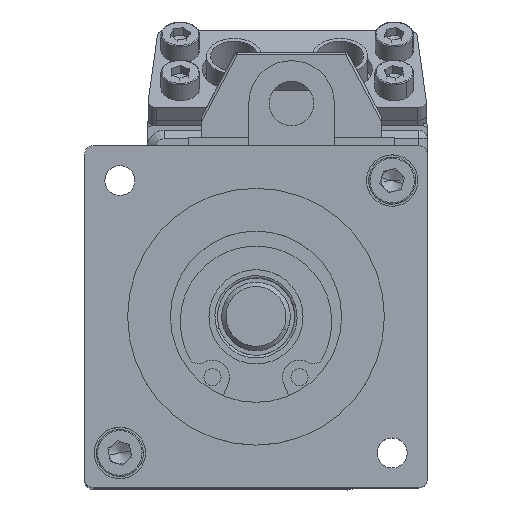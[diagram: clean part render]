
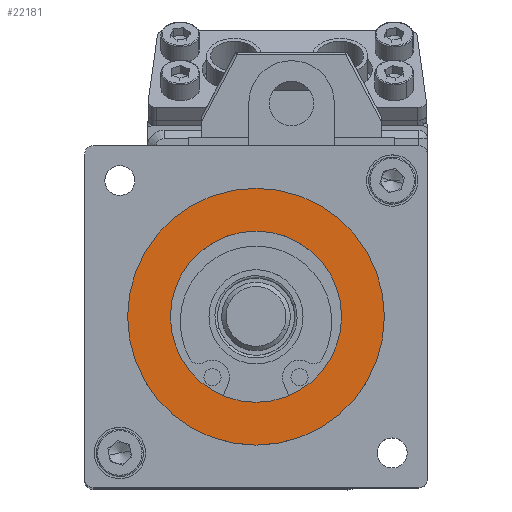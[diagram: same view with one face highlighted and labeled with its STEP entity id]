
A CAD part, top view. The second image highlights one B-rep face of the part: STEP entity #22181.
In plain terms, the highlighted planar face has unit normal (0, 0, 1).
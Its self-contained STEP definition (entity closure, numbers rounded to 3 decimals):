
#1251 = DIRECTION ( 'NONE',  ( 0., 0., 1. ) ) ;
#2483 = DIRECTION ( 'NONE',  ( 0., 0., 1. ) ) ;
#4530 = EDGE_CURVE ( 'NONE', #26250, #27536, #22813, .T. ) ;
#4556 = CARTESIAN_POINT ( 'NONE',  ( 53.478, 20., 115.595 ) ) ;
#4907 = ORIENTED_EDGE ( 'NONE', *, *, #17962, .T. ) ;
#5500 = DIRECTION ( 'NONE',  ( 1., 0., 0. ) ) ;
#7892 = DIRECTION ( 'NONE',  ( 0., 0., 1. ) ) ;
#8002 = CARTESIAN_POINT ( 'NONE',  ( 68.478, 20., 115.595 ) ) ;
#9048 = AXIS2_PLACEMENT_3D ( 'NONE', #13125, #30801, #15651 ) ;
#9721 = AXIS2_PLACEMENT_3D ( 'NONE', #11499, #29174, #13990 ) ;
#10327 = CIRCLE ( 'NONE', #16713, 15. ) ;
#10531 = EDGE_LOOP ( 'NONE', ( #4907, #13214 ) ) ;
#10637 = VERTEX_POINT ( 'NONE', #16654 ) ;
#11499 = CARTESIAN_POINT ( 'NONE',  ( 68.478, 20., 115.595 ) ) ;
#12291 = EDGE_LOOP ( 'NONE', ( #15156, #23514 ) ) ;
#13125 = CARTESIAN_POINT ( 'NONE',  ( 68.478, 20., 115.595 ) ) ;
#13214 = ORIENTED_EDGE ( 'NONE', *, *, #19123, .T. ) ;
#13544 = AXIS2_PLACEMENT_3D ( 'NONE', #8002, #7892, #5500 ) ;
#13990 = DIRECTION ( 'NONE',  ( 1., 0., 0. ) ) ;
#15156 = ORIENTED_EDGE ( 'NONE', *, *, #4530, .F. ) ;
#15651 = DIRECTION ( 'NONE',  ( 1., 0., 0. ) ) ;
#16654 = CARTESIAN_POINT ( 'NONE',  ( 83.478, 20., 115.595 ) ) ;
#16713 = AXIS2_PLACEMENT_3D ( 'NONE', #17600, #2483, #20131 ) ;
#17600 = CARTESIAN_POINT ( 'NONE',  ( 68.478, 20., 115.595 ) ) ;
#17962 = EDGE_CURVE ( 'NONE', #27503, #10637, #31301, .T. ) ;
#18924 = DIRECTION ( 'NONE',  ( 1., 0., 0. ) ) ;
#19123 = EDGE_CURVE ( 'NONE', #10637, #27503, #10327, .T. ) ;
#20131 = DIRECTION ( 'NONE',  ( 1., 0., 0. ) ) ;
#21692 = CIRCLE ( 'NONE', #9048, 10. ) ;
#22181 = ADVANCED_FACE ( 'NONE', ( #23166, #23965 ), #29024, .T. ) ;
#22813 = CIRCLE ( 'NONE', #13544, 10. ) ;
#23166 = FACE_BOUND ( 'NONE', #12291, .T. ) ;
#23514 = ORIENTED_EDGE ( 'NONE', *, *, #32499, .F. ) ;
#23965 = FACE_OUTER_BOUND ( 'NONE', #10531, .T. ) ;
#26250 = VERTEX_POINT ( 'NONE', #28632 ) ;
#27503 = VERTEX_POINT ( 'NONE', #4556 ) ;
#27536 = VERTEX_POINT ( 'NONE', #32464 ) ;
#27802 = AXIS2_PLACEMENT_3D ( 'NONE', #31513, #1251, #18924 ) ;
#28632 = CARTESIAN_POINT ( 'NONE',  ( 58.478, 20., 115.595 ) ) ;
#29024 = PLANE ( 'NONE',  #27802 ) ;
#29174 = DIRECTION ( 'NONE',  ( 0., 0., 1. ) ) ;
#30801 = DIRECTION ( 'NONE',  ( 0., 0., 1. ) ) ;
#31301 = CIRCLE ( 'NONE', #9721, 15. ) ;
#31513 = CARTESIAN_POINT ( 'NONE',  ( 68.478, 20., 115.595 ) ) ;
#32464 = CARTESIAN_POINT ( 'NONE',  ( 78.478, 20., 115.595 ) ) ;
#32499 = EDGE_CURVE ( 'NONE', #27536, #26250, #21692, .T. ) ;
